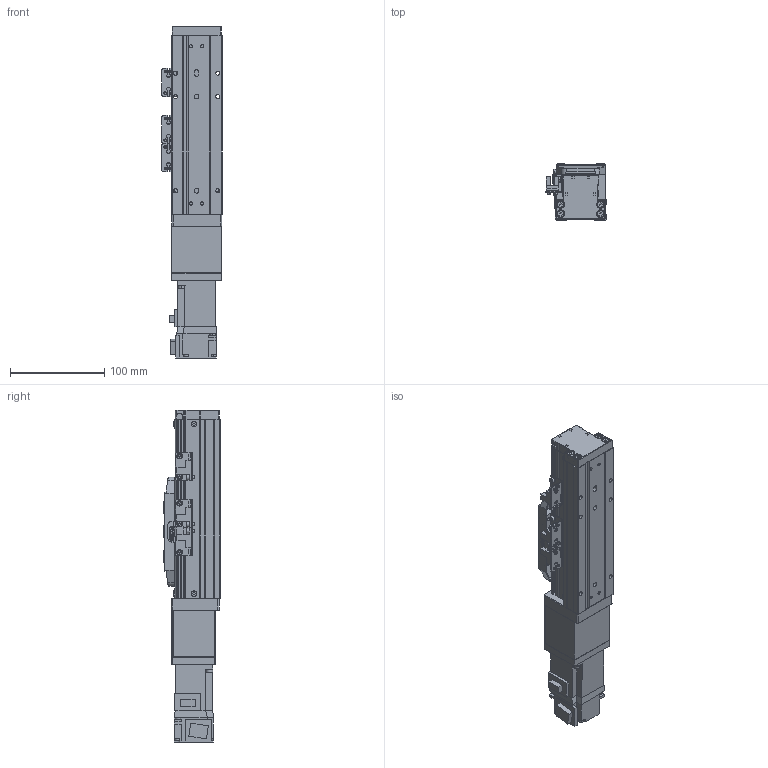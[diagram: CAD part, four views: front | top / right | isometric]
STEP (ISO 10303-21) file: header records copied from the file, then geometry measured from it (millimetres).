
FILE_DESCRIPTION (( 'STEP AP203' ), '1' );
FILE_NAME ('GTH5-50-BC-M10-C4.step', '2022-09-23T00:40:14', ( '微软用户' ), ( '微软中国' ), 'SwSTEP 2.0', 'SolidWorks 2020', '' );
FILE_SCHEMA (( 'CONFIG_CONTROL_DESIGN' ));
Length unit declared in the file: millimetre
Products named in the file (20): GTH50-024; HG-KR13; GBT 70.1-M4×16; GBT 70.1-M2.5×6; GTH5-50-BC-M10-C4; GTH50-003; GTH50-028; GTH50-006; GTH50-013; GTH50-022-1; GTH50-004; GTH50-023; CTHA60-027; GBT 70.3-M3℅6; GBT 70.1-M3℅6; CTHA60-013; BTH-M3X5X6; GBT96.1-2002 3×0.8; CTHA60-006-2_CTHA60-006-1; GTH50-001_50
Assembly tree (60 placements, depth 2):
  GTH5-50-BC-M10-C4
    GTH50-006
    GTH50-004
    GBT 70.3-M3℅6  x6
    BTH-M3X5X6  x8
    GTH50-001_50
    GBT 70.1-M4×16  x8
    GTH50-003
    GTH50-013
    GTH50-023  x3
    GBT 70.1-M3℅6  x12
    GBT96.1-2002 3×0.8  x6
    GTH50-024  x3
    GBT 70.1-M2.5×6  x2
    GTH50-028  x2
    GTH50-022-1
    CTHA60-027
    CTHA60-013
    CTHA60-006-2_CTHA60-006-1
    HG-KR13
Bounding box: 63.8 x 60 x 352.6 mm (x, y, z)
Volume: 748854.5 mm3; surface area: 163470.4 mm2
Topology: 62 solids, 62 shells, 2033 faces, 4656 edges, 2838 vertices
Faces by surface type: plane 1105, cylinder 527, cone 235, torus 158, sphere 8
Entity records: 33515 total; most frequent: DIRECTION 5395, CARTESIAN_POINT 5295, ORIENTED_EDGE 4998, EDGE_CURVE 2499, AXIS2_PLACEMENT_3D 1844, LINE 1707, VECTOR 1707, VERTEX_POINT 1578
